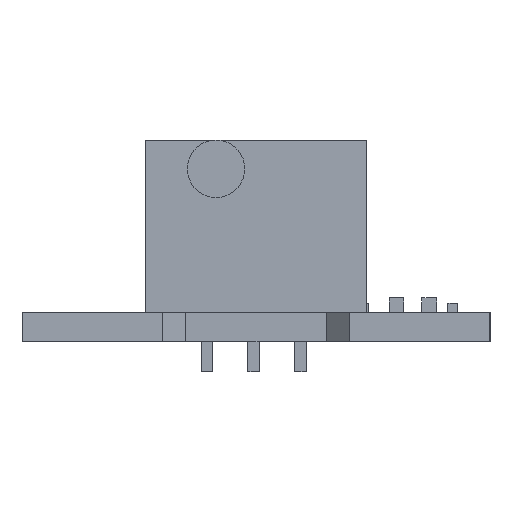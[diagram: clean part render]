
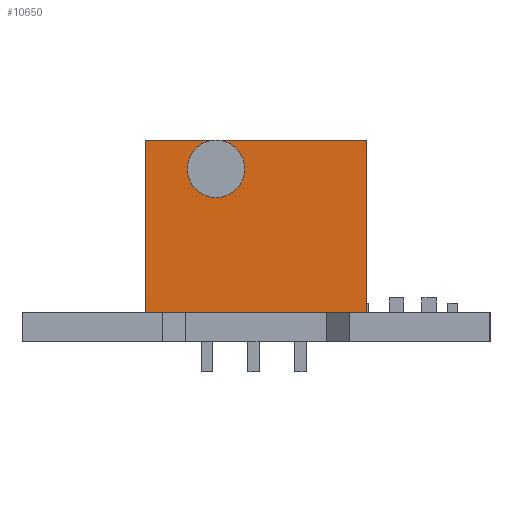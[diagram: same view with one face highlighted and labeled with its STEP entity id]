
A CAD part, left-side view. The second image highlights one B-rep face of the part: STEP entity #10650.
In plain terms, the highlighted planar face has unit normal (-1, 0, 0).
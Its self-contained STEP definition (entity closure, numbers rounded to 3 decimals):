
#10650 = ADVANCED_FACE('',(#10651),#10665,.T.);
#10651 = FACE_BOUND('',#10652,.T.);
#10652 = EDGE_LOOP('',(#10653,#10688,#10716,#10744));
#10653 = ORIENTED_EDGE('',*,*,#10654,.T.);
#10654 = EDGE_CURVE('',#10655,#10657,#10659,.T.);
#10655 = VERTEX_POINT('',#10656);
#10656 = CARTESIAN_POINT('',(-6.,-6.,0.));
#10657 = VERTEX_POINT('',#10658);
#10658 = CARTESIAN_POINT('',(-6.,-6.,9.36));
#10659 = SURFACE_CURVE('',#10660,(#10664,#10676),.PCURVE_S1.);
#10660 = LINE('',#10661,#10662);
#10661 = CARTESIAN_POINT('',(-6.,-6.,0.));
#10662 = VECTOR('',#10663,1.);
#10663 = DIRECTION('',(0.,0.,1.));
#10664 = PCURVE('',#10665,#10670);
#10665 = PLANE('',#10666);
#10666 = AXIS2_PLACEMENT_3D('',#10667,#10668,#10669);
#10667 = CARTESIAN_POINT('',(-6.,-6.,0.));
#10668 = DIRECTION('',(-1.,0.,0.));
#10669 = DIRECTION('',(0.,1.,0.));
#10670 = DEFINITIONAL_REPRESENTATION('',(#10671),#10675);
#10671 = LINE('',#10672,#10673);
#10672 = CARTESIAN_POINT('',(0.,0.));
#10673 = VECTOR('',#10674,1.);
#10674 = DIRECTION('',(0.,-1.));
#10675 = ( GEOMETRIC_REPRESENTATION_CONTEXT(2) 
PARAMETRIC_REPRESENTATION_CONTEXT() REPRESENTATION_CONTEXT('2D SPACE',''
  ) );
#10676 = PCURVE('',#10677,#10682);
#10677 = PLANE('',#10678);
#10678 = AXIS2_PLACEMENT_3D('',#10679,#10680,#10681);
#10679 = CARTESIAN_POINT('',(6.,-6.,0.));
#10680 = DIRECTION('',(0.,-1.,0.));
#10681 = DIRECTION('',(-1.,0.,0.));
#10682 = DEFINITIONAL_REPRESENTATION('',(#10683),#10687);
#10683 = LINE('',#10684,#10685);
#10684 = CARTESIAN_POINT('',(12.,0.));
#10685 = VECTOR('',#10686,1.);
#10686 = DIRECTION('',(0.,-1.));
#10687 = ( GEOMETRIC_REPRESENTATION_CONTEXT(2) 
PARAMETRIC_REPRESENTATION_CONTEXT() REPRESENTATION_CONTEXT('2D SPACE',''
  ) );
#10688 = ORIENTED_EDGE('',*,*,#10689,.T.);
#10689 = EDGE_CURVE('',#10657,#10690,#10692,.T.);
#10690 = VERTEX_POINT('',#10691);
#10691 = CARTESIAN_POINT('',(-6.,6.,9.36));
#10692 = SURFACE_CURVE('',#10693,(#10697,#10704),.PCURVE_S1.);
#10693 = LINE('',#10694,#10695);
#10694 = CARTESIAN_POINT('',(-6.,-6.,9.36));
#10695 = VECTOR('',#10696,1.);
#10696 = DIRECTION('',(0.,1.,0.));
#10697 = PCURVE('',#10665,#10698);
#10698 = DEFINITIONAL_REPRESENTATION('',(#10699),#10703);
#10699 = LINE('',#10700,#10701);
#10700 = CARTESIAN_POINT('',(0.,-9.36));
#10701 = VECTOR('',#10702,1.);
#10702 = DIRECTION('',(1.,0.));
#10703 = ( GEOMETRIC_REPRESENTATION_CONTEXT(2) 
PARAMETRIC_REPRESENTATION_CONTEXT() REPRESENTATION_CONTEXT('2D SPACE',''
  ) );
#10704 = PCURVE('',#10705,#10710);
#10705 = PLANE('',#10706);
#10706 = AXIS2_PLACEMENT_3D('',#10707,#10708,#10709);
#10707 = CARTESIAN_POINT('',(-6.,-6.,9.36));
#10708 = DIRECTION('',(0.,0.,1.));
#10709 = DIRECTION('',(1.,0.,0.));
#10710 = DEFINITIONAL_REPRESENTATION('',(#10711),#10715);
#10711 = LINE('',#10712,#10713);
#10712 = CARTESIAN_POINT('',(0.,0.));
#10713 = VECTOR('',#10714,1.);
#10714 = DIRECTION('',(0.,1.));
#10715 = ( GEOMETRIC_REPRESENTATION_CONTEXT(2) 
PARAMETRIC_REPRESENTATION_CONTEXT() REPRESENTATION_CONTEXT('2D SPACE',''
  ) );
#10716 = ORIENTED_EDGE('',*,*,#10717,.F.);
#10717 = EDGE_CURVE('',#10718,#10690,#10720,.T.);
#10718 = VERTEX_POINT('',#10719);
#10719 = CARTESIAN_POINT('',(-6.,6.,0.));
#10720 = SURFACE_CURVE('',#10721,(#10725,#10732),.PCURVE_S1.);
#10721 = LINE('',#10722,#10723);
#10722 = CARTESIAN_POINT('',(-6.,6.,0.));
#10723 = VECTOR('',#10724,1.);
#10724 = DIRECTION('',(0.,0.,1.));
#10725 = PCURVE('',#10665,#10726);
#10726 = DEFINITIONAL_REPRESENTATION('',(#10727),#10731);
#10727 = LINE('',#10728,#10729);
#10728 = CARTESIAN_POINT('',(12.,0.));
#10729 = VECTOR('',#10730,1.);
#10730 = DIRECTION('',(0.,-1.));
#10731 = ( GEOMETRIC_REPRESENTATION_CONTEXT(2) 
PARAMETRIC_REPRESENTATION_CONTEXT() REPRESENTATION_CONTEXT('2D SPACE',''
  ) );
#10732 = PCURVE('',#10733,#10738);
#10733 = PLANE('',#10734);
#10734 = AXIS2_PLACEMENT_3D('',#10735,#10736,#10737);
#10735 = CARTESIAN_POINT('',(-6.,6.,0.));
#10736 = DIRECTION('',(0.,1.,0.));
#10737 = DIRECTION('',(1.,0.,0.));
#10738 = DEFINITIONAL_REPRESENTATION('',(#10739),#10743);
#10739 = LINE('',#10740,#10741);
#10740 = CARTESIAN_POINT('',(0.,0.));
#10741 = VECTOR('',#10742,1.);
#10742 = DIRECTION('',(0.,-1.));
#10743 = ( GEOMETRIC_REPRESENTATION_CONTEXT(2) 
PARAMETRIC_REPRESENTATION_CONTEXT() REPRESENTATION_CONTEXT('2D SPACE',''
  ) );
#10744 = ORIENTED_EDGE('',*,*,#10745,.F.);
#10745 = EDGE_CURVE('',#10655,#10718,#10746,.T.);
#10746 = SURFACE_CURVE('',#10747,(#10751,#10758),.PCURVE_S1.);
#10747 = LINE('',#10748,#10749);
#10748 = CARTESIAN_POINT('',(-6.,-6.,0.));
#10749 = VECTOR('',#10750,1.);
#10750 = DIRECTION('',(0.,1.,0.));
#10751 = PCURVE('',#10665,#10752);
#10752 = DEFINITIONAL_REPRESENTATION('',(#10753),#10757);
#10753 = LINE('',#10754,#10755);
#10754 = CARTESIAN_POINT('',(0.,0.));
#10755 = VECTOR('',#10756,1.);
#10756 = DIRECTION('',(1.,0.));
#10757 = ( GEOMETRIC_REPRESENTATION_CONTEXT(2) 
PARAMETRIC_REPRESENTATION_CONTEXT() REPRESENTATION_CONTEXT('2D SPACE',''
  ) );
#10758 = PCURVE('',#10759,#10764);
#10759 = PLANE('',#10760);
#10760 = AXIS2_PLACEMENT_3D('',#10761,#10762,#10763);
#10761 = CARTESIAN_POINT('',(-6.,-6.,0.));
#10762 = DIRECTION('',(0.,0.,1.));
#10763 = DIRECTION('',(1.,0.,0.));
#10764 = DEFINITIONAL_REPRESENTATION('',(#10765),#10769);
#10765 = LINE('',#10766,#10767);
#10766 = CARTESIAN_POINT('',(0.,0.));
#10767 = VECTOR('',#10768,1.);
#10768 = DIRECTION('',(0.,1.));
#10769 = ( GEOMETRIC_REPRESENTATION_CONTEXT(2) 
PARAMETRIC_REPRESENTATION_CONTEXT() REPRESENTATION_CONTEXT('2D SPACE',''
  ) );
